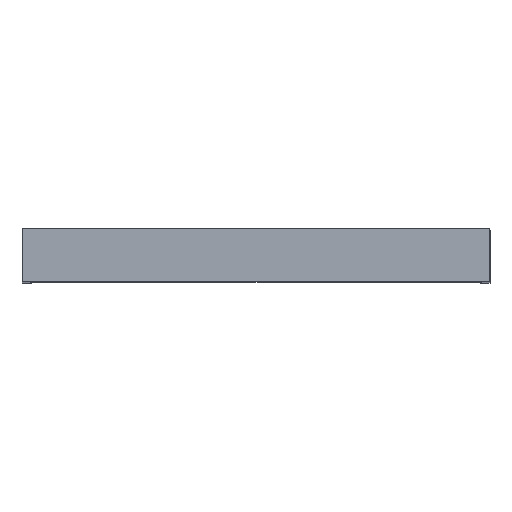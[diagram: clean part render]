
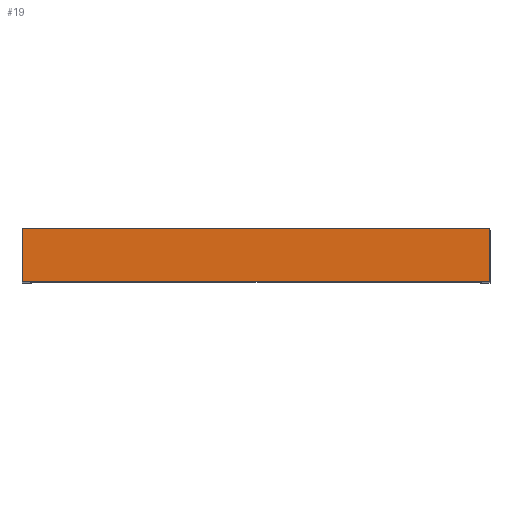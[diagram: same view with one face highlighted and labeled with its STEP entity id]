
A CAD part, top view. The second image highlights one B-rep face of the part: STEP entity #19.
In plain terms, the highlighted planar face has unit normal (0, 0, 1).
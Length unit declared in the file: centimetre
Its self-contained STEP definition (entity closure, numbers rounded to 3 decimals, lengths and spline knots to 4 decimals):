
#19=ADVANCED_FACE('',(#37),#241,.T.);
#37=FACE_OUTER_BOUND('',#55,.T.);
#55=EDGE_LOOP('',(#76,#77,#78,#79));
#76=ORIENTED_EDGE('',*,*,#148,.T.);
#77=ORIENTED_EDGE('',*,*,#149,.T.);
#78=ORIENTED_EDGE('',*,*,#150,.F.);
#79=ORIENTED_EDGE('',*,*,#145,.F.);
#145=EDGE_CURVE('',#217,#218,#181,.T.);
#148=EDGE_CURVE('',#217,#220,#184,.T.);
#149=EDGE_CURVE('',#220,#221,#185,.T.);
#150=EDGE_CURVE('',#218,#221,#186,.T.);
#181=B_SPLINE_CURVE_WITH_KNOTS('',1,(#404,#405),.UNSPECIFIED.,.F.,.F.,(2,
2),(0.,8.),.UNSPECIFIED.);
#184=B_SPLINE_CURVE_WITH_KNOTS('',1,(#410,#411),.UNSPECIFIED.,.F.,.F.,(2,
2),(-140.3213,-69.7213),.UNSPECIFIED.);
#185=B_SPLINE_CURVE_WITH_KNOTS('',1,(#412,#413),.UNSPECIFIED.,.F.,.F.,(2,
2),(0.,8.),.UNSPECIFIED.);
#186=B_SPLINE_CURVE_WITH_KNOTS('',1,(#414,#415),.UNSPECIFIED.,.F.,.F.,(2,
2),(-140.3213,-69.7213),.UNSPECIFIED.);
#217=VERTEX_POINT('',#395);
#218=VERTEX_POINT('',#396);
#220=VERTEX_POINT('',#398);
#221=VERTEX_POINT('',#399);
#241=PLANE('',#347);
#347=AXIS2_PLACEMENT_3D('',#389,#368,$);
#368=DIRECTION('',(0.,0.,1.));
#389=CARTESIAN_POINT('',(0.,0.,91.5));
#395=CARTESIAN_POINT('',(0.,0.,91.5));
#396=CARTESIAN_POINT('',(0.,8.,91.5));
#398=CARTESIAN_POINT('',(70.6,0.,91.5));
#399=CARTESIAN_POINT('',(70.6,8.,91.5));
#404=CARTESIAN_POINT('',(0.,0.,91.5));
#405=CARTESIAN_POINT('',(0.,8.,91.5));
#410=CARTESIAN_POINT('',(0.,0.,91.5));
#411=CARTESIAN_POINT('',(70.6,0.,91.5));
#412=CARTESIAN_POINT('',(70.6,0.,91.5));
#413=CARTESIAN_POINT('',(70.6,8.,91.5));
#414=CARTESIAN_POINT('',(0.,8.,91.5));
#415=CARTESIAN_POINT('',(70.6,8.,91.5));
